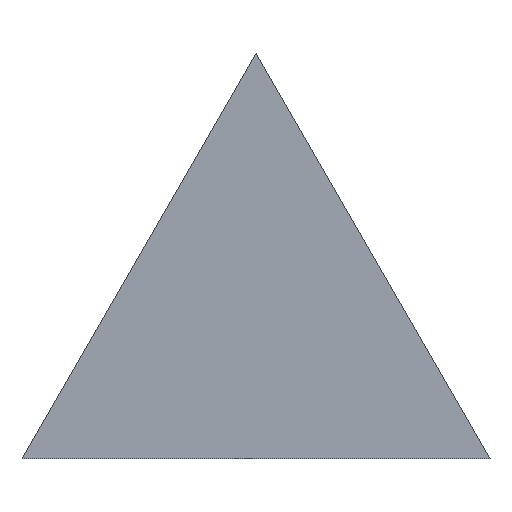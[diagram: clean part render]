
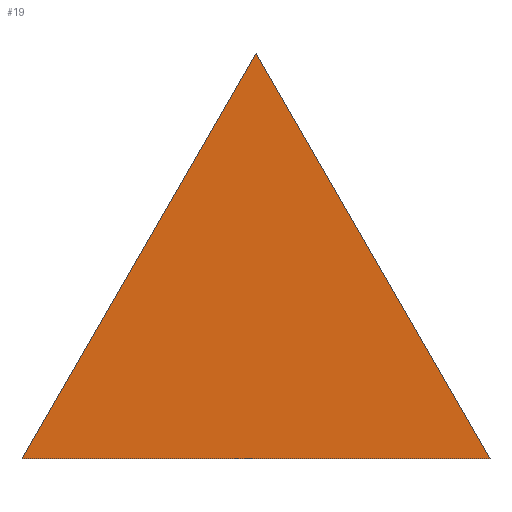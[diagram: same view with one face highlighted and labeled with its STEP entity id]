
A CAD part, top view. The second image highlights one B-rep face of the part: STEP entity #19.
In plain terms, the highlighted planar face has unit normal (0, 0, 1).
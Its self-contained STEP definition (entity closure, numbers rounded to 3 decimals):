
#19=ADVANCED_FACE('',(#24),#76,.T.);
#24=FACE_OUTER_BOUND('',#29,.T.);
#29=EDGE_LOOP('',(#45,#46,#47));
#45=ORIENTED_EDGE('',*,*,#52,.T.);
#46=ORIENTED_EDGE('',*,*,#54,.T.);
#47=ORIENTED_EDGE('',*,*,#56,.T.);
#52=EDGE_CURVE('',#69,#70,#61,.T.);
#54=EDGE_CURVE('',#70,#71,#63,.T.);
#56=EDGE_CURVE('',#71,#69,#65,.T.);
#61=B_SPLINE_CURVE_WITH_KNOTS('',1,(#132,#133),.UNSPECIFIED.,.F.,.F.,(2,
2),(250.,500.),.UNSPECIFIED.);
#63=B_SPLINE_CURVE_WITH_KNOTS('',1,(#136,#137),.UNSPECIFIED.,.F.,.F.,(2,
2),(500.,750.),.UNSPECIFIED.);
#65=B_SPLINE_CURVE_WITH_KNOTS('',1,(#140,#141),.UNSPECIFIED.,.F.,.F.,(2,
2),(750.,1000.),.UNSPECIFIED.);
#69=VERTEX_POINT('',#121);
#70=VERTEX_POINT('',#122);
#71=VERTEX_POINT('',#123);
#76=PLANE('',#101);
#101=AXIS2_PLACEMENT_3D('',#117,#109,$);
#109=DIRECTION('',(0.,0.,1.));
#117=CARTESIAN_POINT('',(-31.25,-27.063,14.));
#121=CARTESIAN_POINT('',(250.,0.,14.));
#122=CARTESIAN_POINT('',(125.,216.506,14.));
#123=CARTESIAN_POINT('',(0.,0.,14.));
#132=CARTESIAN_POINT('',(250.,0.,14.));
#133=CARTESIAN_POINT('',(125.,216.506,14.));
#136=CARTESIAN_POINT('',(125.,216.506,14.));
#137=CARTESIAN_POINT('',(0.,0.,14.));
#140=CARTESIAN_POINT('',(0.,0.,14.));
#141=CARTESIAN_POINT('',(250.,0.,14.));
